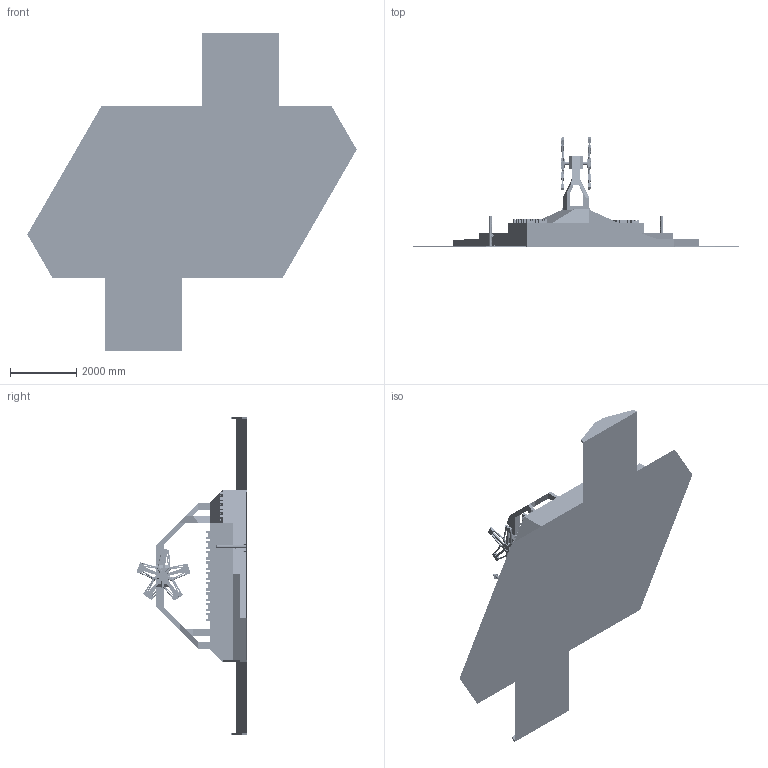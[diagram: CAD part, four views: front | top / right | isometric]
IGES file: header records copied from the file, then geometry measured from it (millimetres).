
Start section: SolidWorks IGES file using analytic representation for surfaces
Global section: file name: HC:\Users\Administrator\Desktop\2019RM1.1版本资源岛.IGS; native system: SolidWorks 2018; preprocessor: SolidWorks 2018; author: Administrator; date: 190118.200955; units: millimetre
Bounding box: 9936.2 x 3331.26 x 9600 mm (x, y, z)
Surface area: 144223560.1 mm2 (no closed solid volume)
Topology: 0 solids, 0 shells, 21371 faces, 220964 edges, 220424 vertices
Faces by surface type: bspline 11838, revolution 9533
